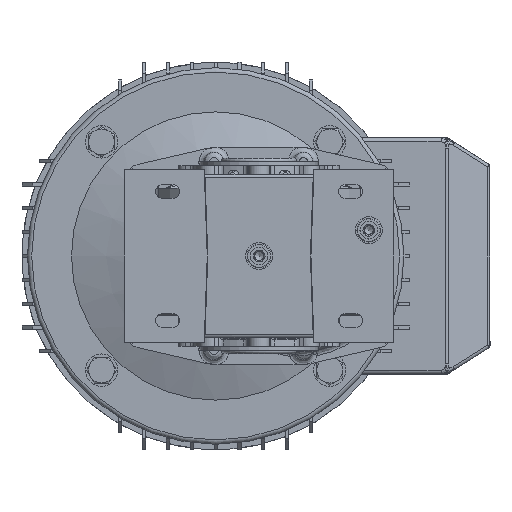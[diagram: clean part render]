
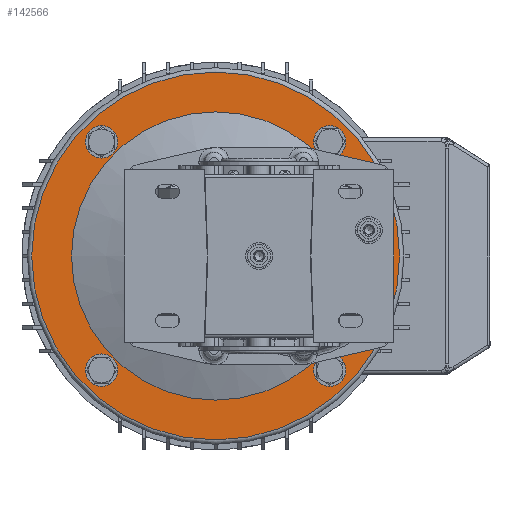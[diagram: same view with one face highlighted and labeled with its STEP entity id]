
A CAD part, left-side view. The second image highlights one B-rep face of the part: STEP entity #142566.
In plain terms, the highlighted planar face has unit normal (-1, 0, 0) as drawn and (1, 0, 0) by its records, which use the part's own axes.
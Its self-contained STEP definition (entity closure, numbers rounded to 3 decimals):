
#136203=CARTESIAN_POINT('',(-19.25,-115.066,-106.066));
#136204=VERTEX_POINT('',#136203);
#136205=CARTESIAN_POINT('',(-19.25,-106.066,-106.066));
#136206=DIRECTION('',(-1.0,0.0,0.0));
#136207=DIRECTION('',(0.0,1.0,0.0));
#136208=AXIS2_PLACEMENT_3D('',#136205,#136206,#136207);
#136209=CIRCLE('',#136208,9.0);
#136210=EDGE_CURVE('',#136204,#136204,#136209,.T.);
#136252=CARTESIAN_POINT('',(-19.25,-106.066,115.066));
#136253=VERTEX_POINT('',#136252);
#136254=CARTESIAN_POINT('',(-19.25,-106.066,106.066));
#136255=DIRECTION('',(-1.0,0.0,0.0));
#136256=DIRECTION('',(0.0,0.0,-1.0));
#136257=AXIS2_PLACEMENT_3D('',#136254,#136255,#136256);
#136258=CIRCLE('',#136257,9.0);
#136259=EDGE_CURVE('',#136253,#136253,#136258,.T.);
#136301=CARTESIAN_POINT('',(-19.25,115.066,106.066));
#136302=VERTEX_POINT('',#136301);
#136303=CARTESIAN_POINT('',(-19.25,106.066,106.066));
#136304=DIRECTION('',(-1.0,0.0,0.0));
#136305=DIRECTION('',(0.0,-1.0,0.0));
#136306=AXIS2_PLACEMENT_3D('',#136303,#136304,#136305);
#136307=CIRCLE('',#136306,9.0);
#136308=EDGE_CURVE('',#136302,#136302,#136307,.T.);
#136350=CARTESIAN_POINT('',(-19.25,106.066,-115.066));
#136351=VERTEX_POINT('',#136350);
#136352=CARTESIAN_POINT('',(-19.25,106.066,-106.066));
#136353=DIRECTION('',(-1.0,0.0,0.0));
#136354=DIRECTION('',(0.0,0.0,1.0));
#136355=AXIS2_PLACEMENT_3D('',#136352,#136353,#136354);
#136356=CIRCLE('',#136355,9.0);
#136357=EDGE_CURVE('',#136351,#136351,#136356,.T.);
#142523=CARTESIAN_POINT('',(-19.25,171.0,0.));
#142524=VERTEX_POINT('',#142523);
#142525=CARTESIAN_POINT('',(-19.25,0.,0.0));
#142526=DIRECTION('',(-1.0,0.0,0.0));
#142527=DIRECTION('',(0.0,-1.0,0.0));
#142528=AXIS2_PLACEMENT_3D('',#142525,#142526,#142527);
#142529=CIRCLE('',#142528,171.0);
#142530=EDGE_CURVE('',#142524,#142524,#142529,.T.);
#142535=CARTESIAN_POINT('',(-19.25,154.5,0.0));
#142536=DIRECTION('',(1.0,0.0,0.0));
#142537=DIRECTION('',(0.0,0.0,-1.0));
#142538=AXIS2_PLACEMENT_3D('',#142535,#142536,#142537);
#142539=PLANE('',#142538);
#142540=ORIENTED_EDGE('',*,*,#142530,.F.);
#142541=EDGE_LOOP('',(#142540));
#142542=FACE_OUTER_BOUND('',#142541,.T.);
#142543=ORIENTED_EDGE('',*,*,#136210,.T.);
#142544=EDGE_LOOP('',(#142543));
#142545=FACE_BOUND('',#142544,.T.);
#142546=ORIENTED_EDGE('',*,*,#136259,.T.);
#142547=EDGE_LOOP('',(#142546));
#142548=FACE_BOUND('',#142547,.T.);
#142549=ORIENTED_EDGE('',*,*,#136308,.T.);
#142550=EDGE_LOOP('',(#142549));
#142551=FACE_BOUND('',#142550,.T.);
#142552=ORIENTED_EDGE('',*,*,#136357,.T.);
#142553=EDGE_LOOP('',(#142552));
#142554=FACE_BOUND('',#142553,.T.);
#142555=CARTESIAN_POINT('',(-19.25,134.0,0.0));
#142556=VERTEX_POINT('',#142555);
#142557=CARTESIAN_POINT('',(-19.25,0.,0.0));
#142558=DIRECTION('',(1.0,0.0,0.0));
#142559=DIRECTION('',(0.0,1.0,0.0));
#142560=AXIS2_PLACEMENT_3D('',#142557,#142558,#142559);
#142561=CIRCLE('',#142560,134.0);
#142562=EDGE_CURVE('',#142556,#142556,#142561,.T.);
#142563=ORIENTED_EDGE('',*,*,#142562,.F.);
#142564=EDGE_LOOP('',(#142563));
#142565=FACE_BOUND('',#142564,.T.);
#142566=ADVANCED_FACE('',(#142542,#142545,#142548,#142551,#142554,#142565),#142539,.T.);
